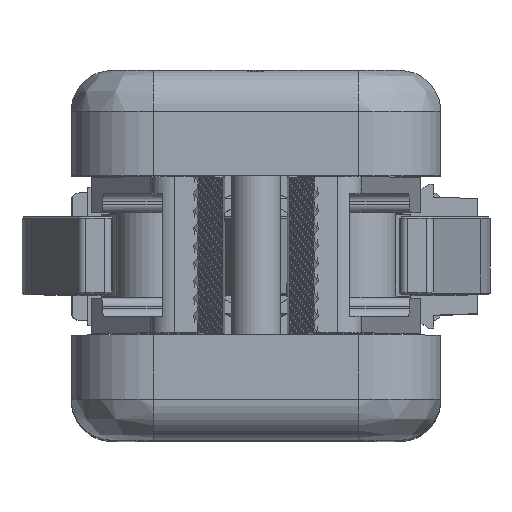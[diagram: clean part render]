
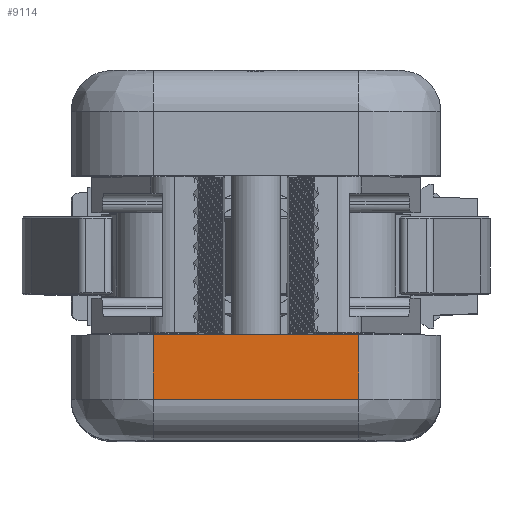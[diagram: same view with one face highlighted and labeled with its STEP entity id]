
A CAD part, top view. The second image highlights one B-rep face of the part: STEP entity #9114.
In plain terms, the highlighted planar face has unit normal (0, 0, 1).
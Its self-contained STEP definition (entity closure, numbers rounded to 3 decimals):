
#223=LINE('',#24148,#1392);
#224=LINE('',#24151,#1393);
#225=LINE('',#24153,#1394);
#226=LINE('',#24155,#1395);
#1392=VECTOR('',#19985,1.);
#1393=VECTOR('',#19986,1.);
#1394=VECTOR('',#19987,1.);
#1395=VECTOR('',#19988,1.);
#2555=FACE_OUTER_BOUND('',#11028,.T.);
#8574=PLANE('',#18376);
#9114=ADVANCED_FACE('',(#2555),#8574,.F.);
#11028=EDGE_LOOP('',(#12230,#12231,#12232,#12233));
#12230=ORIENTED_EDGE('',*,*,#16723,.T.);
#12231=ORIENTED_EDGE('',*,*,#16724,.T.);
#12232=ORIENTED_EDGE('',*,*,#16725,.T.);
#12233=ORIENTED_EDGE('',*,*,#16726,.T.);
#15548=VERTEX_POINT('',#24149);
#15549=VERTEX_POINT('',#24150);
#15550=VERTEX_POINT('',#24152);
#15551=VERTEX_POINT('',#24154);
#16723=EDGE_CURVE('',#15548,#15549,#223,.T.);
#16724=EDGE_CURVE('',#15549,#15550,#224,.T.);
#16725=EDGE_CURVE('',#15550,#15551,#225,.T.);
#16726=EDGE_CURVE('',#15551,#15548,#226,.T.);
#18376=AXIS2_PLACEMENT_3D('',#24156,#19989,#19990);
#19985=DIRECTION('',(1.,0.,0.));
#19986=DIRECTION('',(0.,1.,0.));
#19987=DIRECTION('',(-1.,0.,0.));
#19988=DIRECTION('',(0.,-1.,0.));
#19989=DIRECTION('',(0.,0.,-1.));
#19990=DIRECTION('',(1.,0.,0.));
#24148=CARTESIAN_POINT('',(22.5,-17.5,203.));
#24149=CARTESIAN_POINT('',(-12.5,-17.5,203.));
#24150=CARTESIAN_POINT('',(12.5,-17.5,203.));
#24151=CARTESIAN_POINT('',(12.5,-22.5,203.));
#24152=CARTESIAN_POINT('',(12.5,-9.7,203.));
#24153=CARTESIAN_POINT('',(-22.5,-9.7,203.));
#24154=CARTESIAN_POINT('',(-12.5,-9.7,203.));
#24155=CARTESIAN_POINT('',(-12.5,-22.5,203.));
#24156=CARTESIAN_POINT('',(-22.5,-22.5,203.));
